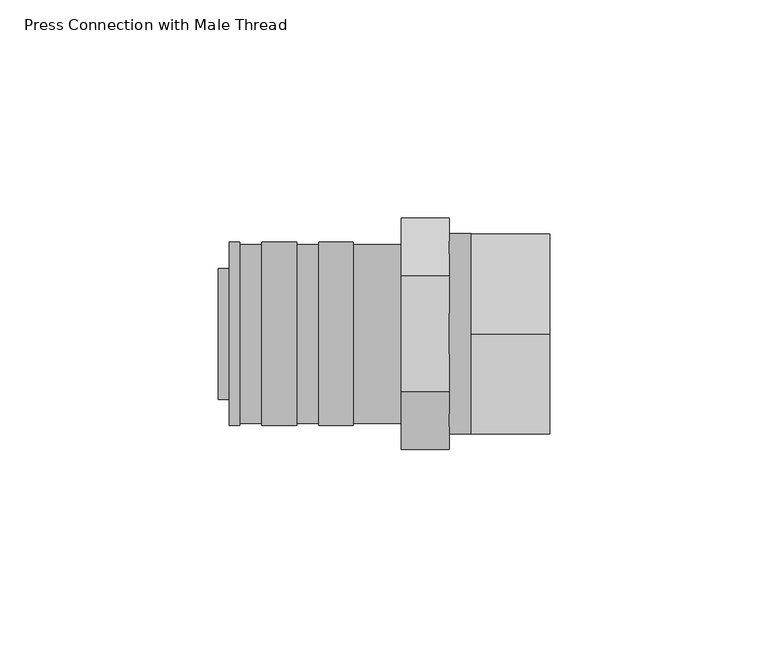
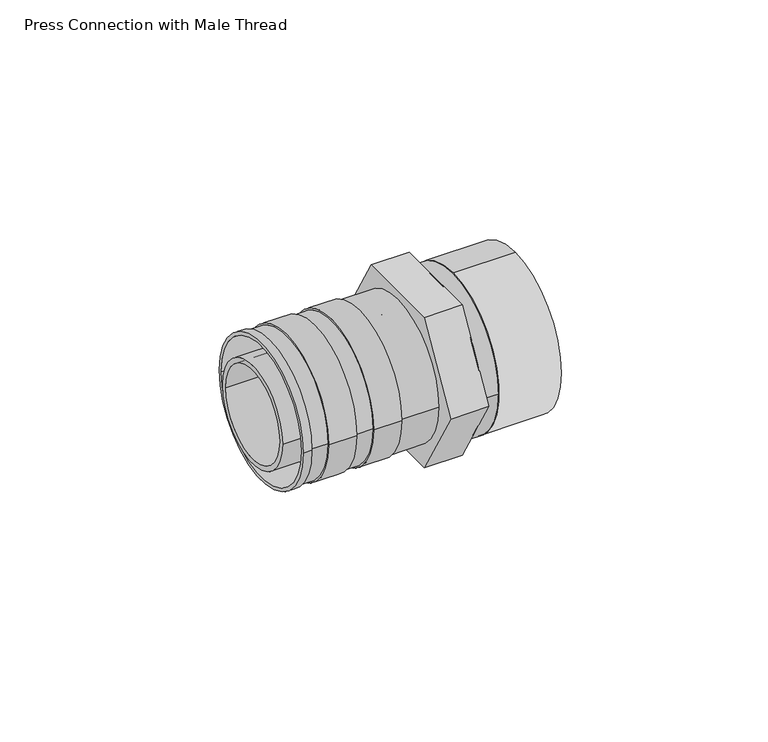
"""IFC4 building model written with IfcOpenShell, lengths in millimetres: pipe fitting geometry, Press Connection with Male Thread : Superpipe Press Connection - 40x1½“ MT."""

from ifc_helpers import new_model, si_unit, point, frame, origin, origin_2d, place, context, project, spatial, polyline, circle_curve, trimmed, segment, composite_curve, outline, extrude, source, transform, mapped, element, save
from ifc_brep_helpers import plane_surface, cylinder_surface, revolved_surface, advanced_brep


def press_connection_with_male_thread_b05d8531(model_context):
    return source(origin(), model_context, "Body", "SolidModel", [
        extrude(outline(composite_curve([segment(trimmed(circle_curve(origin_2d(), 23.0), [point((0.0, -23.0))], [point((0.0, 23.0))], False, "CARTESIAN"), True, "CONTINUOUS"), segment(trimmed(circle_curve(origin_2d(), 23.0), [point((0.0, 23.0))], [point((0.0, -23.0))], False, "CARTESIAN"), True, "CONTINUOUS")], self_intersect=False), holes=[composite_curve([segment(trimmed(circle_curve(origin_2d(), 19.0), [point((0.0, -19.0))], [point((0.0, 19.0))], True, "CARTESIAN"), True, "CONTINUOUS"), segment(trimmed(circle_curve(origin_2d(), 19.0), [point((0.0, 19.0))], [point((0.0, -19.0))], True, "CARTESIAN"), True, "CONTINUOUS")], self_intersect=False)]), frame((58.0, 0.0, 0.0), z_axis=(1.0, 0.0, 0.0), x_axis=(0.0, 1.0, 0.0)), (0.0, 0.0, 1.0), 18.0),
        advanced_brep(
        [(2.5, 21.0, 0.0), (2.5, -21.0, 0.0), (2.5, 20.0, 0.0), (2.5, -20.0, 0.0), (42.0, -20.5, 0.0), (42.0, 20.5, 0.0), (42.0, 20.0, 0.0), (42.0, -20.0, 0.0), (5.0, 21.0, 0.0), (5.0, -21.0, 0.0), (31.0, 21.0, 0.0), (31.0, -21.0, 0.0), (23.0, -21.0, 0.0), (23.0, 21.0, 0.0), (18.0, 21.0, 0.0), (18.0, -21.0, 0.0), (10.0, -21.0, 0.0), (10.0, 21.0, 0.0), (31.0, 20.5, 0.0), (31.0, -20.5, 0.0), (23.0, -20.5, 0.0), (23.0, 20.5, 0.0), (18.0, 20.5, 0.0), (18.0, -20.5, 0.0), (10.0, -20.5, 0.0), (10.0, 20.5, 0.0), (5.0, 20.5, 0.0), (5.0, -20.5, 0.0)],
        [
            (0, 1, circle_curve(frame((2.5, 0.0, 0.0), z_axis=(-1.0, 0.0, 0.0), x_axis=(0.0, -1.0, 0.0)), 21.0)),
            (1, 0, circle_curve(frame((2.5, 0.0, 0.0), z_axis=(-1.0, 0.0, 0.0), x_axis=(0.0, -1.0, 0.0)), 21.0)),
            (2, 3, circle_curve(frame((2.5, 0.0, 0.0), z_axis=(1.0, 0.0, 0.0), x_axis=(0.0, -1.0, 0.0)), 20.0)),
            (3, 2, circle_curve(frame((2.5, 0.0, 0.0), z_axis=(1.0, 0.0, 0.0), x_axis=(0.0, -1.0, 0.0)), 20.0)),
            (4, 5, circle_curve(frame((42.0, 0.0, 0.0), z_axis=(1.0, 0.0, 0.0), x_axis=(0.0, 1.0, 0.0)), 20.5)),
            (5, 4, circle_curve(frame((42.0, 0.0, 0.0), z_axis=(1.0, 0.0, 0.0), x_axis=(0.0, 1.0, 0.0)), 20.5)),
            (6, 7, circle_curve(frame((42.0, 0.0, 0.0), z_axis=(-1.0, 0.0, 0.0), x_axis=(0.0, -1.0, 0.0)), 20.0)),
            (7, 6, circle_curve(frame((42.0, 0.0, 0.0), z_axis=(-1.0, 0.0, 0.0), x_axis=(0.0, -1.0, 0.0)), 20.0)),
            (0, 8),
            (8, 9, circle_curve(frame((5.0, 0.0, 0.0), z_axis=(-1.0, 0.0, 0.0), x_axis=(0.0, -1.0, 0.0)), 21.0)),
            (9, 1),
            (10, 11, circle_curve(frame((31.0, 0.0, 0.0), z_axis=(-1.0, 0.0, 0.0), x_axis=(0.0, -1.0, 0.0)), 21.0)),
            (11, 12),
            (12, 13, circle_curve(frame((23.0, 0.0, 0.0), z_axis=(1.0, 0.0, 0.0), x_axis=(0.0, -1.0, 0.0)), 21.0)),
            (13, 10),
            (14, 15, circle_curve(frame((18.0, 0.0, 0.0), z_axis=(-1.0, 0.0, 0.0), x_axis=(0.0, -1.0, 0.0)), 21.0)),
            (15, 16),
            (16, 17, circle_curve(frame((10.0, 0.0, 0.0), z_axis=(1.0, 0.0, 0.0), x_axis=(0.0, -1.0, 0.0)), 21.0)),
            (17, 14),
            (9, 8, circle_curve(frame((5.0, 0.0, 0.0), z_axis=(-1.0, 0.0, 0.0), x_axis=(0.0, -1.0, 0.0)), 21.0)),
            (11, 10, circle_curve(frame((31.0, 0.0, 0.0), z_axis=(-1.0, 0.0, 0.0), x_axis=(0.0, -1.0, 0.0)), 21.0)),
            (13, 12, circle_curve(frame((23.0, 0.0, 0.0), z_axis=(1.0, 0.0, 0.0), x_axis=(0.0, -1.0, 0.0)), 21.0)),
            (15, 14, circle_curve(frame((18.0, 0.0, 0.0), z_axis=(-1.0, 0.0, 0.0), x_axis=(0.0, -1.0, 0.0)), 21.0)),
            (17, 16, circle_curve(frame((10.0, 0.0, 0.0), z_axis=(1.0, 0.0, 0.0), x_axis=(0.0, -1.0, 0.0)), 21.0)),
            (2, 6),
            (7, 3),
            (18, 19, circle_curve(frame((31.0, 0.0, 0.0), z_axis=(-1.0, 0.0, 0.0), x_axis=(0.0, 1.0, 0.0)), 20.5)),
            (19, 11),
            (10, 18),
            (19, 18, circle_curve(frame((31.0, 0.0, 0.0), z_axis=(-1.0, 0.0, 0.0), x_axis=(0.0, 1.0, 0.0)), 20.5)),
            (18, 5),
            (4, 19),
            (20, 21, circle_curve(frame((23.0, 0.0, 0.0), z_axis=(1.0, 0.0, 0.0), x_axis=(0.0, 1.0, 0.0)), 20.5)),
            (21, 13),
            (12, 20),
            (21, 20, circle_curve(frame((23.0, 0.0, 0.0), z_axis=(1.0, 0.0, 0.0), x_axis=(0.0, 1.0, 0.0)), 20.5)),
            (22, 23, circle_curve(frame((18.0, 0.0, 0.0), z_axis=(-1.0, 0.0, 0.0), x_axis=(0.0, 1.0, 0.0)), 20.5)),
            (23, 15),
            (14, 22),
            (23, 22, circle_curve(frame((18.0, 0.0, 0.0), z_axis=(-1.0, 0.0, 0.0), x_axis=(0.0, 1.0, 0.0)), 20.5)),
            (20, 23),
            (22, 21),
            (24, 25, circle_curve(frame((10.0, 0.0, 0.0), z_axis=(1.0, 0.0, 0.0), x_axis=(0.0, 1.0, 0.0)), 20.5)),
            (25, 17),
            (16, 24),
            (25, 24, circle_curve(frame((10.0, 0.0, 0.0), z_axis=(1.0, 0.0, 0.0), x_axis=(0.0, 1.0, 0.0)), 20.5)),
            (26, 27, circle_curve(frame((5.0, 0.0, 0.0), z_axis=(-1.0, 0.0, 0.0), x_axis=(0.0, 1.0, 0.0)), 20.5)),
            (27, 9),
            (8, 26),
            (27, 26, circle_curve(frame((5.0, 0.0, 0.0), z_axis=(-1.0, 0.0, 0.0), x_axis=(0.0, 1.0, 0.0)), 20.5)),
            (24, 27),
            (26, 25),
        ],
        [
            plane_surface(frame((2.5, -21.0, 0.0), z_axis=(-1.0, 0.0, 0.0), x_axis=(0.0, 0.0, 1.0))),
            plane_surface(frame((42.0, -21.0, 0.0), z_axis=(1.0, 0.0, 0.0), x_axis=(0.0, 0.0, -1.0))),
            cylinder_surface(frame((42.0, 0.0, 0.0), z_axis=(-1.0, 0.0, 0.0), x_axis=(0.0, -1.0, 0.0)), 21.0),
            revolved_surface(polyline([(42.0, -20.0, 0.0), (2.5, -20.0, 0.0)]), (42.0, 0.0, 0.0), (1.0, 0.0, 0.0)),
            plane_surface(frame((31.0, 0.0, 0.0), z_axis=(1.0, 0.0, 0.0), x_axis=(0.0, 1.0, 0.0))),
            cylinder_surface(frame((2014.0, 0.0, 0.0), z_axis=(-1.0, 0.0, 0.0), x_axis=(0.0, 1.0, 0.0)), 20.5),
            plane_surface(frame((23.0, 0.0, 0.0), z_axis=(-1.0, 0.0, 0.0), x_axis=(0.0, 1.0, 0.0))),
            plane_surface(frame((18.0, 0.0, 0.0), z_axis=(1.0, 0.0, 0.0), x_axis=(0.0, 1.0, 0.0))),
            plane_surface(frame((10.0, 0.0, 0.0), z_axis=(-1.0, 0.0, 0.0), x_axis=(0.0, 1.0, 0.0))),
            plane_surface(frame((5.0, 0.0, 0.0), z_axis=(1.0, 0.0, 0.0), x_axis=(0.0, 1.0, 0.0))),
        ],
        [
            (0, [[1, 2], [3, 4]]),
            (1, [[5, 6], [7, 8]]),
            (2, [[-1, 9, 10, 11]]),
            (2, [[12, 13, 14, 15]]),
            (2, [[16, 17, 18, 19]]),
            (2, [[-2, -11, 20, -9]]),
            (2, [[21, -15, 22, -13]]),
            (2, [[23, -19, 24, -17]]),
            (3, [[-3, 25, -8, 26]]),
            (3, [[-4, -26, -7, -25]]),
            (4, [[27, 28, -12, 29]]),
            (4, [[30, -29, -21, -28]]),
            (5, [[-27, 31, -5, 32]]),
            (5, [[-30, -32, -6, -31]]),
            (6, [[33, 34, -14, 35]]),
            (6, [[36, -35, -22, -34]]),
            (7, [[37, 38, -16, 39]]),
            (7, [[40, -39, -23, -38]]),
            (5, [[-33, 41, -37, 42]]),
            (5, [[-36, -42, -40, -41]]),
            (8, [[43, 44, -18, 45]]),
            (8, [[46, -45, -24, -44]]),
            (9, [[47, 48, -10, 49]]),
            (9, [[50, -49, -20, -48]]),
            (5, [[-43, 51, -47, 52]]),
            (5, [[-46, -52, -50, -51]]),
        ],
    ),
        extrude(outline(composite_curve([segment(trimmed(circle_curve(origin_2d(), 23.0), [point((-23.0, 0.0))], [point((23.0, 0.0))], False, "CARTESIAN"), True, "CONTINUOUS"), segment(trimmed(circle_curve(origin_2d(), 23.0), [point((23.0, 0.0))], [point((-23.0, 0.0))], False, "CARTESIAN"), True, "CONTINUOUS")], self_intersect=False), holes=[composite_curve([segment(trimmed(circle_curve(origin_2d(), 19.0), [point((-19.0, 0.0))], [point((19.0, 0.0))], True, "CARTESIAN"), True, "CONTINUOUS"), segment(trimmed(circle_curve(origin_2d(), 19.0), [point((19.0, 0.0))], [point((-19.0, 0.0))], True, "CARTESIAN"), True, "CONTINUOUS")], self_intersect=False)]), frame((53.0, 0.0, 0.0), z_axis=(1.0, 0.0, 0.0), x_axis=(0.0, 1.0, 0.0)), (0.0, 0.0, 1.0), 5.0),
        extrude(outline(polyline([(-26.5581124, 0.0), (-13.2790562, 23.0), (13.2790562, 23.0), (26.5581124, 0.0), (13.2790562, -23.0), (-13.2790562, -23.0), (-26.5581124, 0.0)]), holes=[composite_curve([segment(trimmed(circle_curve(origin_2d(), 13.5), [point((13.5, 0.0))], [point((-13.5, 0.0))], True, "CARTESIAN"), True, "CONTINUOUS"), segment(trimmed(circle_curve(origin_2d(), 13.5), [point((-13.5, 0.0))], [point((13.5, 0.0))], True, "CARTESIAN"), True, "CONTINUOUS")], self_intersect=False)]), frame((42.0, 0.0, 0.0), z_axis=(1.0, 0.0, 0.0), x_axis=(0.0, 1.0, 0.0)), (0.0, 0.0, 1.0), 11.0),
        extrude(outline(composite_curve([segment(trimmed(circle_curve(origin_2d(), 15.0), [point((-15.0, 0.0))], [point((15.0, 0.0))], False, "CARTESIAN"), True, "CONTINUOUS"), segment(trimmed(circle_curve(origin_2d(), 15.0), [point((15.0, 0.0))], [point((-15.0, 0.0))], False, "CARTESIAN"), True, "CONTINUOUS")], self_intersect=False), holes=[composite_curve([segment(trimmed(circle_curve(origin_2d(), 13.5), [point((13.5, 0.0))], [point((-13.5, 0.0))], True, "CARTESIAN"), True, "CONTINUOUS"), segment(trimmed(circle_curve(origin_2d(), 13.5), [point((-13.5, 0.0))], [point((13.5, 0.0))], True, "CARTESIAN"), True, "CONTINUOUS")], self_intersect=False)]), frame((0.0, 0.0, 0.0), z_axis=(1.0, 0.0, 0.0), x_axis=(0.0, 1.0, 0.0)), (0.0, 0.0, 1.0), 42.0),
    ])


if __name__ == "__main__":
    model = new_model("IFC4")
    model_context = context("Model", 3, world=origin())
    ifc_project = project(units=[si_unit("LENGTHUNIT", "METRE", prefix="MILLI")], contexts=[model_context])
    site = spatial("IfcSite", under=ifc_project)
    building = spatial("IfcBuilding", under=site)
    placement = place(None, origin())
    press_connection_with_male_thread_shape = press_connection_with_male_thread_b05d8531(model_context)
    element("IfcPipeFitting", 1, ObjectType="Press Connection with Male Thread : Superpipe Press Connection - 40x1½“ MT", at=placement, inside=building, context=model_context, shape_type="MappedRepresentation", body=[
        mapped(press_connection_with_male_thread_shape, transform((0.0, 0.0, 0.0), x_axis=(1.0, 0.0, 0.0), y_axis=(0.0, 1.0, 0.0), z_axis=(0.0, 0.0, 1.0))),
    ])
    save(model, "model.ifc")
